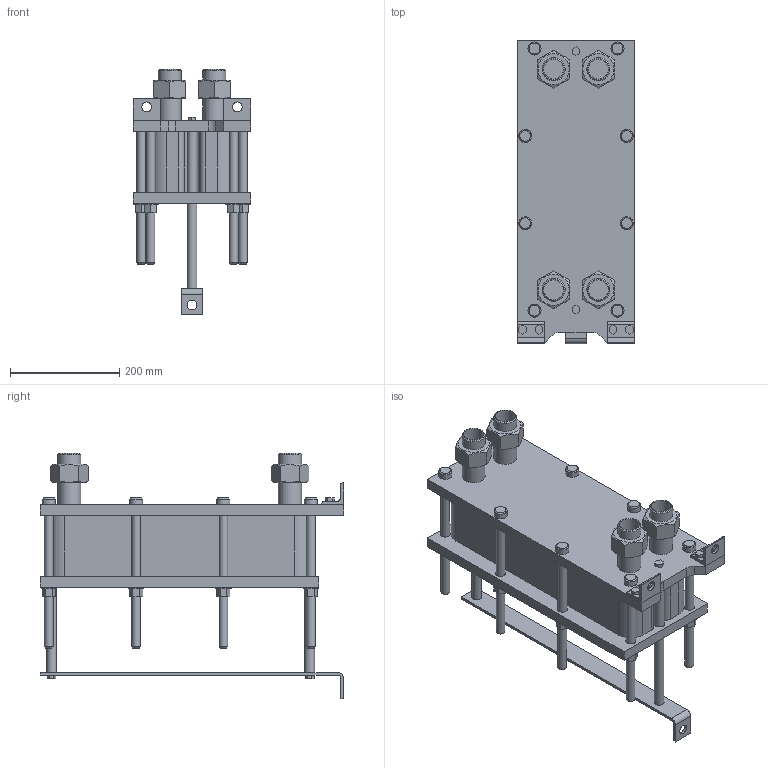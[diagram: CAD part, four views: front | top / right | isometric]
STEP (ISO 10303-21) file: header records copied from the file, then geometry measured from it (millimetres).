
FILE_DESCRIPTION(/* description */ (''),/* implementation_level */ '2;1');
FILE_NAME(/* name */ 'C:\Users\zhuro\Desktop\ENCO\TO\ЭН-004\ЭН-0,5-004-36-1.stp',/* time_stamp */ '2022-06-06T10:46:01+03:00',/* author */ ('zhuro'),/* organization */ (''),/* preprocessor_version */ 'ST-DEVELOPER v18.1',/* originating_system */ 'Autodesk Inventor 2022',/* authorisation */ '');
FILE_SCHEMA (('AUTOMOTIVE_DESIGN { 1 0 10303 214 3 1 1 }'));
Length unit declared in the file: millimetre
Products named in the file (1): ЭН-0,5-004-36-1
Bounding box: 216 x 555 x 449.8 mm (x, y, z)
Volume: 13899423 mm3; surface area: 1200681.9 mm2
Topology: 40 solids, 40 shells, 403 faces, 865 edges, 574 vertices
Faces by surface type: plane 272, cylinder 103, cone 28
Full cylindrical faces by diameter (mm): 10 x4, 16 x16, 18 x29, 20 x2, 24 x8, 28 x8, 36.3 x5, 42.3 x9
Entity records: 11137 total; most frequent: CARTESIAN_POINT 1939, DIRECTION 1879, ORIENTED_EDGE 1730, EDGE_CURVE 865, AXIS2_PLACEMENT_3D 658, VERTEX_POINT 574, LINE 563, VECTOR 563
